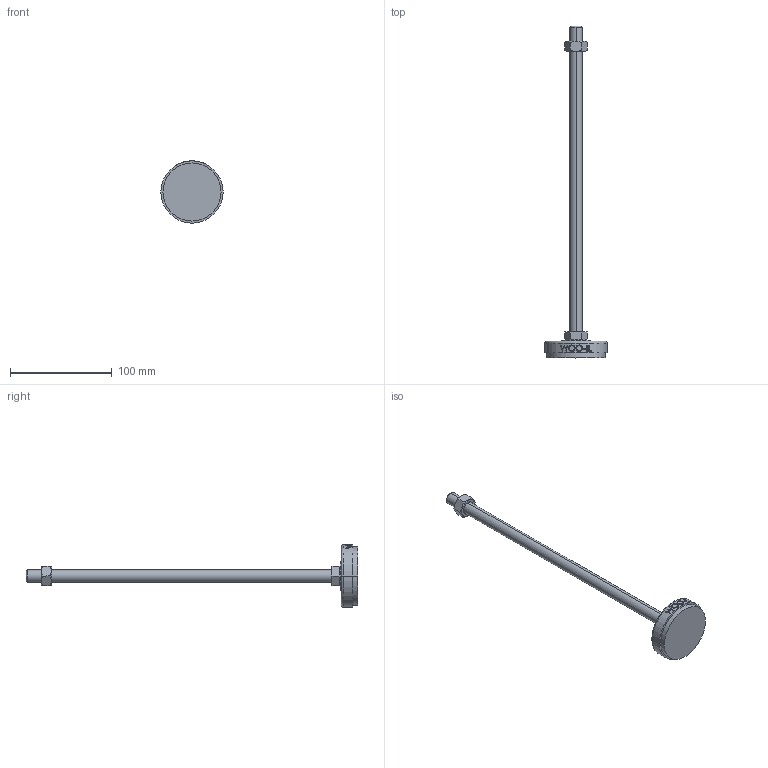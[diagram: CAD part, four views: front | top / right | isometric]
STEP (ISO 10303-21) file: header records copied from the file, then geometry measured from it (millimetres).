
FILE_DESCRIPTION (( 'STEP AP214' ), '1' );
FILE_NAME ('NS61-M12-300.step', '2021-01-11T05:45:13', ( '' ), ( '' ), 'SwSTEP 2.0', 'SolidWorks 2019', '' );
FILE_SCHEMA (( 'AUTOMOTIVE_DESIGN' ));
Length unit declared in the file: millimetre
Products named in the file (2): NS61-M12-300
Bounding box: 61 x 325.5 x 61 mm (x, y, z)
Volume: 85147.3 mm3; surface area: 22656.8 mm2
Topology: 3 solids, 3 shells, 96 faces, 223 edges, 144 vertices
Faces by surface type: plane 48, cylinder 18, bspline 16, cone 12, torus 2
Entity records: 4252 total; most frequent: CARTESIAN_POINT 2127, ORIENTED_EDGE 446, DIRECTION 381, EDGE_CURVE 223, VERTEX_POINT 144, AXIS2_PLACEMENT_3D 142, EDGE_LOOP 109, VECTOR 97
